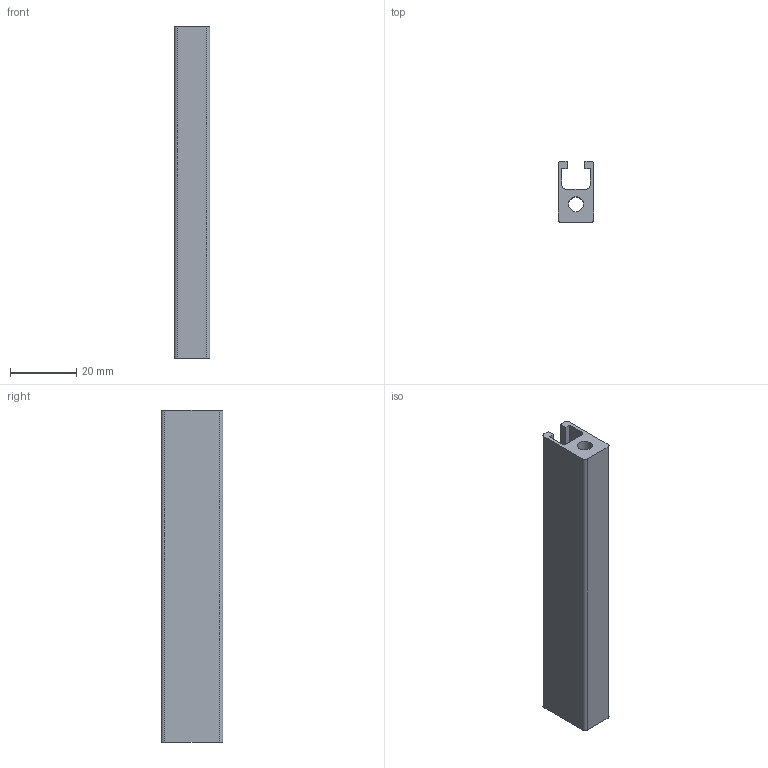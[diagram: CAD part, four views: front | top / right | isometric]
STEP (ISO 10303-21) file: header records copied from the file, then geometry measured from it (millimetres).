
FILE_DESCRIPTION (( 'STEP AP214' ), '1' );
FILE_NAME ('10.8 x 18.5 - 101810.STEP', '2016-02-22T13:00:58', ( 'admin' ), ( 'Hewlett-Packard Company' ), 'SwSTEP 2.0', 'SolidWorks 2014', '' );
FILE_SCHEMA (( 'AUTOMOTIVE_DESIGN' ));
Length unit declared in the file: millimetre
Products named in the file (2): 10.8 x 18.5 - 101810
Bounding box: 10.8 x 18.5 x 100 mm (x, y, z)
Volume: 11753.3 mm3; surface area: 9588.3 mm2
Topology: 1 solids, 1 shells, 22 faces, 60 edges, 40 vertices
Faces by surface type: plane 14, cylinder 8
Entity records: 753 total; most frequent: CARTESIAN_POINT 124, DIRECTION 124, ORIENTED_EDGE 120, EDGE_CURVE 60, VECTOR 44, LINE 44, AXIS2_PLACEMENT_3D 40, VERTEX_POINT 40
